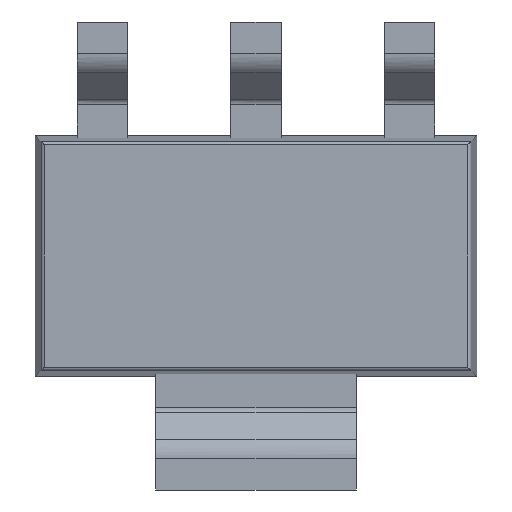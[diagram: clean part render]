
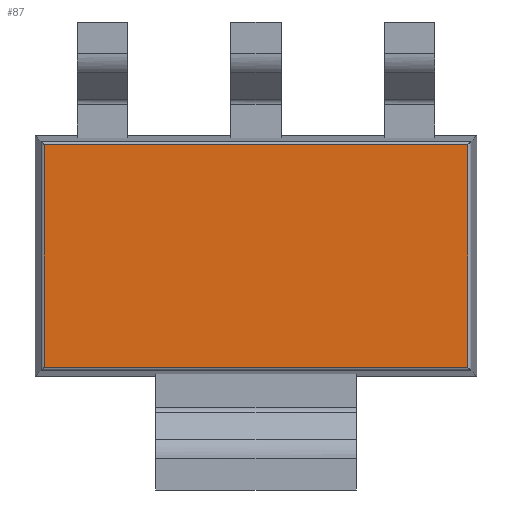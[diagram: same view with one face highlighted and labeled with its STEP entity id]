
A CAD part, front view. The second image highlights one B-rep face of the part: STEP entity #87.
In plain terms, the highlighted planar face has unit normal (0, -1, 0).
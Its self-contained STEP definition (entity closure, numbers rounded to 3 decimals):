
#87=ADVANCED_FACE('',(#161),#1169,.T.);
#161=FACE_OUTER_BOUND('',#235,.T.);
#235=EDGE_LOOP('',(#336,#337,#338,#339));
#336=ORIENTED_EDGE('',*,*,#685,.F.);
#337=ORIENTED_EDGE('',*,*,#686,.F.);
#338=ORIENTED_EDGE('',*,*,#687,.F.);
#339=ORIENTED_EDGE('',*,*,#684,.F.);
#684=EDGE_CURVE('',#1036,#1037,#904,.T.);
#685=EDGE_CURVE('',#1038,#1036,#905,.T.);
#686=EDGE_CURVE('',#1039,#1038,#906,.T.);
#687=EDGE_CURVE('',#1037,#1039,#907,.T.);
#904=B_SPLINE_CURVE_WITH_KNOTS('',1,(#1526,#1527),.UNSPECIFIED.,.F.,.F.,
(2,2),(-3.327,0.),.UNSPECIFIED.);
#905=B_SPLINE_CURVE_WITH_KNOTS('',1,(#1528,#1529),.UNSPECIFIED.,.F.,.F.,
(2,2),(-6.327,0.),.UNSPECIFIED.);
#906=B_SPLINE_CURVE_WITH_KNOTS('',1,(#1530,#1531),.UNSPECIFIED.,.F.,.F.,
(2,2),(-3.327,0.),.UNSPECIFIED.);
#907=B_SPLINE_CURVE_WITH_KNOTS('',1,(#1532,#1533),.UNSPECIFIED.,.F.,.F.,
(2,2),(-6.327,0.),.UNSPECIFIED.);
#1036=VERTEX_POINT('',#1474);
#1037=VERTEX_POINT('',#1475);
#1038=VERTEX_POINT('',#1476);
#1039=VERTEX_POINT('',#1477);
#1169=PLANE('',#1280);
#1280=AXIS2_PLACEMENT_3D('',#1449,#1363,$);
#1363=DIRECTION('',(0.,-1.,0.));
#1449=CARTESIAN_POINT('',(-3.797,-0.75,-1.997));
#1474=CARTESIAN_POINT('',(3.164,-0.75,1.664));
#1475=CARTESIAN_POINT('',(3.164,-0.75,-1.664));
#1476=CARTESIAN_POINT('',(-3.164,-0.75,1.664));
#1477=CARTESIAN_POINT('',(-3.164,-0.75,-1.664));
#1526=CARTESIAN_POINT('',(3.164,-0.75,1.664));
#1527=CARTESIAN_POINT('',(3.164,-0.75,-1.664));
#1528=CARTESIAN_POINT('',(-3.164,-0.75,1.664));
#1529=CARTESIAN_POINT('',(3.164,-0.75,1.664));
#1530=CARTESIAN_POINT('',(-3.164,-0.75,-1.664));
#1531=CARTESIAN_POINT('',(-3.164,-0.75,1.664));
#1532=CARTESIAN_POINT('',(3.164,-0.75,-1.664));
#1533=CARTESIAN_POINT('',(-3.164,-0.75,-1.664));
